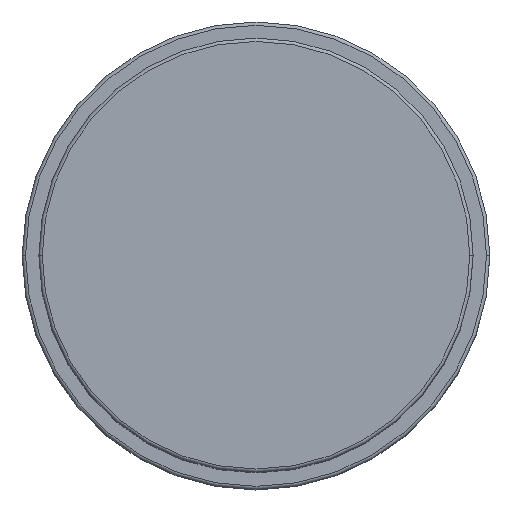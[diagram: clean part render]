
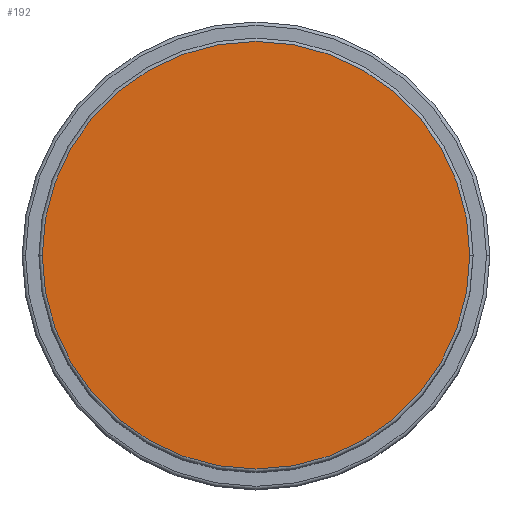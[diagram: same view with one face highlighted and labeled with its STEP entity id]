
A CAD part, top view. The second image highlights one B-rep face of the part: STEP entity #192.
In plain terms, the highlighted planar face has unit normal (0, 0, 1).
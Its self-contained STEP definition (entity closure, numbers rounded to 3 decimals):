
#48 = VERTEX_POINT ( 'NONE', #641 ) ;
#174 = DIRECTION ( 'NONE',  ( 0., 0., 1. ) ) ;
#192 = ADVANCED_FACE ( 'NONE', ( #566 ), #1720, .T. ) ;
#200 = AXIS2_PLACEMENT_3D ( 'NONE', #1785, #559, #1789 ) ;
#307 = CARTESIAN_POINT ( 'NONE',  ( -32., 0., 82. ) ) ;
#323 = CARTESIAN_POINT ( 'NONE',  ( 0., 0., 82. ) ) ;
#559 = DIRECTION ( 'NONE',  ( 0., 0., 1. ) ) ;
#566 = FACE_OUTER_BOUND ( 'NONE', #1799, .T. ) ;
#641 = CARTESIAN_POINT ( 'NONE',  ( 32., 0., 82. ) ) ;
#696 = CIRCLE ( 'NONE', #200, 32. ) ;
#746 = DIRECTION ( 'NONE',  ( 0., 0., 1. ) ) ;
#751 = ORIENTED_EDGE ( 'NONE', *, *, #771, .T. ) ;
#754 = VERTEX_POINT ( 'NONE', #307 ) ;
#771 = EDGE_CURVE ( 'NONE', #48, #754, #1775, .T. ) ;
#808 = AXIS2_PLACEMENT_3D ( 'NONE', #1169, #746, #1027 ) ;
#983 = ORIENTED_EDGE ( 'NONE', *, *, #1211, .T. ) ;
#1027 = DIRECTION ( 'NONE',  ( 1., 0., 0. ) ) ;
#1169 = CARTESIAN_POINT ( 'NONE',  ( 0., 0., 82. ) ) ;
#1211 = EDGE_CURVE ( 'NONE', #754, #48, #696, .T. ) ;
#1304 = DIRECTION ( 'NONE',  ( 1., 0., 0. ) ) ;
#1307 = AXIS2_PLACEMENT_3D ( 'NONE', #323, #174, #1304 ) ;
#1720 = PLANE ( 'NONE',  #808 ) ;
#1775 = CIRCLE ( 'NONE', #1307, 32. ) ;
#1785 = CARTESIAN_POINT ( 'NONE',  ( 0., 0., 82. ) ) ;
#1789 = DIRECTION ( 'NONE',  ( 1., 0., 0. ) ) ;
#1799 = EDGE_LOOP ( 'NONE', ( #751, #983 ) ) ;
